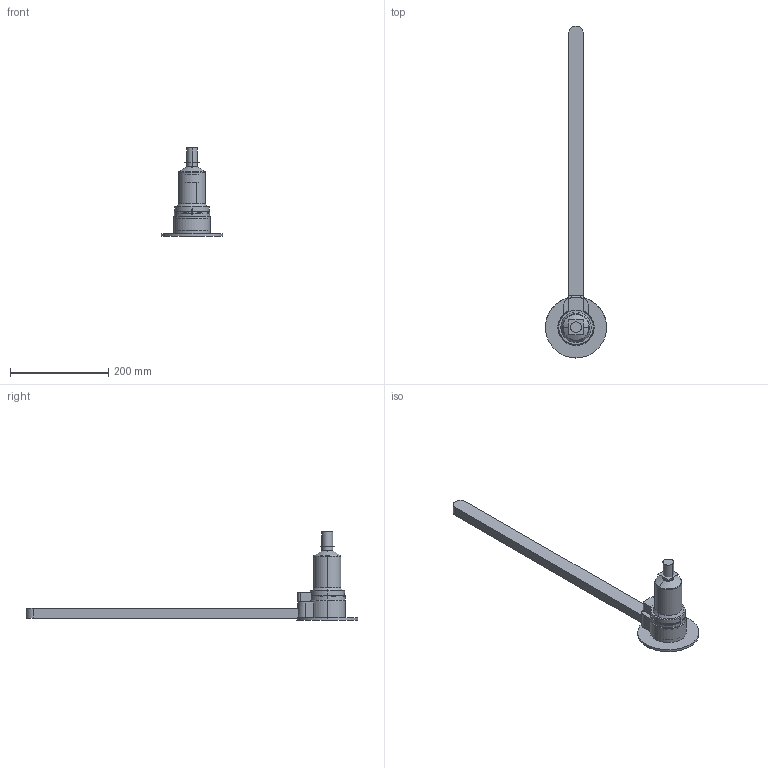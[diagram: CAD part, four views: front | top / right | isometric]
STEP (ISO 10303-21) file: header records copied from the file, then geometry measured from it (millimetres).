
FILE_DESCRIPTION (( 'STEP AP214' ), '1' );
FILE_NAME ('22S-06-100-##P.STEP', '2022-01-11T06:14:31', ( '' ), ( '' ), 'SwSTEP 2.0', 'SolidWorks 2018', '' );
FILE_SCHEMA (( 'AUTOMOTIVE_DESIGN' ));
Length unit declared in the file: millimetre
Products named in the file (3): nozzle_22S-06-100-##P; cutout_22S-06-100-##P; 22S-06-100-##P
Assembly tree (2 placements, depth 2):
  22S-06-100-##P
    nozzle_22S-06-100-##P
    cutout_22S-06-100-##P
Bounding box: 125 x 677.5 x 180 mm (x, y, z)
Volume: 874871.6 mm3; surface area: 161158.4 mm2
Topology: 1 solids, 5 shells, 557 faces, 1493 edges, 929 vertices
Faces by surface type: plane 226, cylinder 180, cone 99, torus 48, sphere 3, bspline 1
Entity records: 18454 total; most frequent: CARTESIAN_POINT 4162, DIRECTION 3055, ORIENTED_EDGE 2964, EDGE_CURVE 1484, AXIS2_PLACEMENT_3D 1146, VERTEX_POINT 929, VECTOR 763, LINE 763
